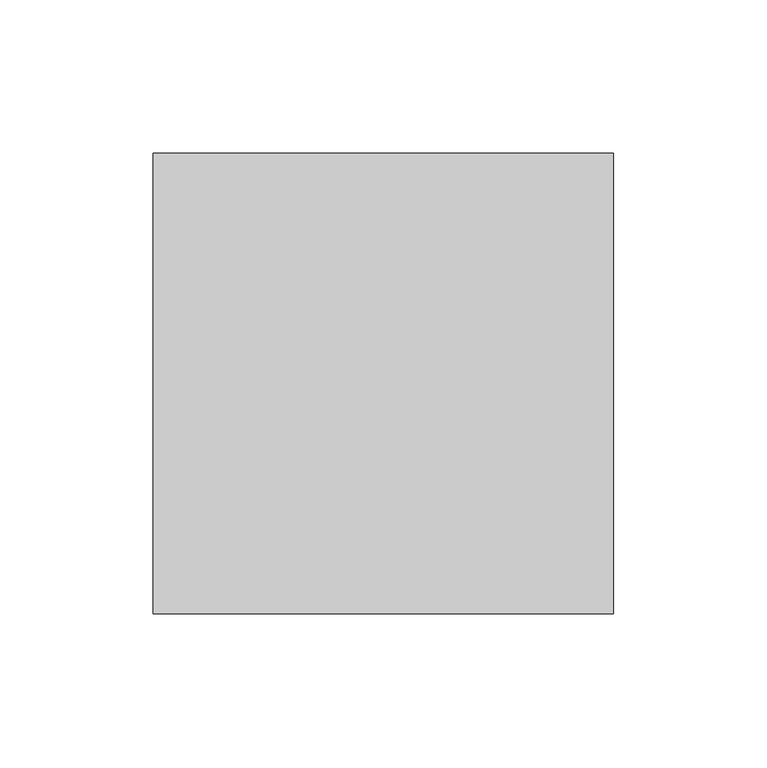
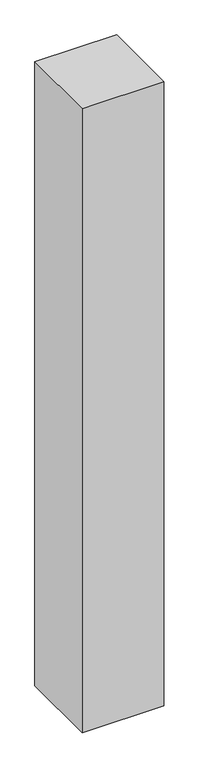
"""IFC4 building model written with IfcOpenShell, lengths in millimetres: proxy geometry, Брус : 150х150."""

from ifc_helpers import new_model, si_unit, origin, origin_with_axes, place, context, project, spatial, polyline, outline, extrude, source, transform, mapped, element, save


def generic_models_311d7380(model_context):
    return source(origin(), model_context, "Body", "SweptSolid", [
        extrude(outline(polyline([(150.0, 0.0), (0.0, 0.0), (0.0, 150.0), (150.0, 150.0), (150.0, 0.0)])), origin_with_axes(), (0.0, 0.0, 1.0), 1210.0),
    ])


if __name__ == "__main__":
    model = new_model("IFC4")
    model_context = context("Model", 3, world=origin())
    ifc_project = project(units=[si_unit("LENGTHUNIT", "METRE", prefix="MILLI")], contexts=[model_context])
    site = spatial("IfcSite", under=ifc_project)
    building = spatial("IfcBuilding", under=site)
    placement = place(None, origin())
    generic_models_shape = generic_models_311d7380(model_context)
    element("IfcBuildingElementProxy", 1, Name="Брус : 150х150", ObjectType="Брус : 150х150", at=placement, inside=building, context=model_context, shape_type="MappedRepresentation", body=[
        mapped(generic_models_shape, transform((0.0, 0.0, 0.0), x_axis=(1.0, 0.0, 0.0), y_axis=(0.0, 1.0, 0.0), z_axis=(0.0, 0.0, 1.0))),
    ])
    save(model, "model.ifc")
